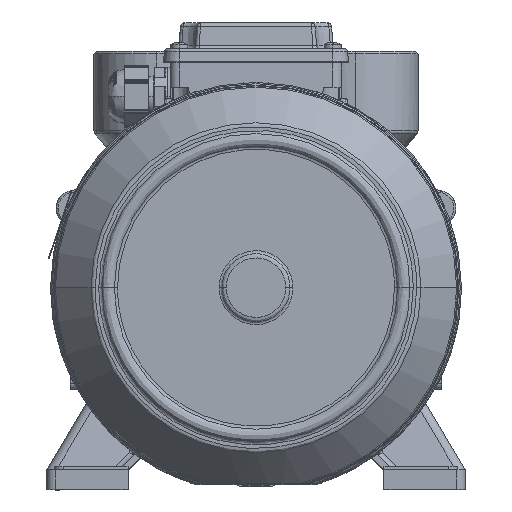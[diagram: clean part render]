
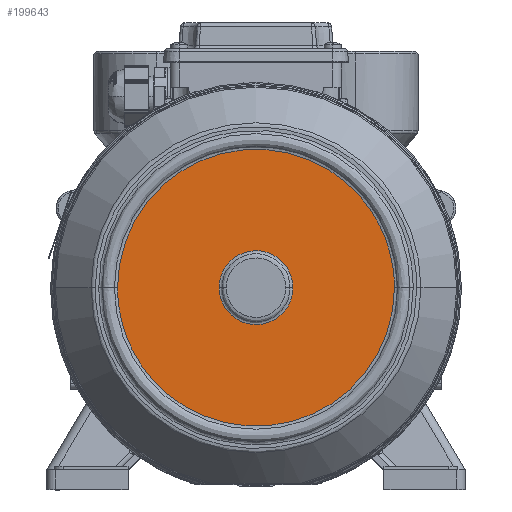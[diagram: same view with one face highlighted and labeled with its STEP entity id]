
A CAD part, top view. The second image highlights one B-rep face of the part: STEP entity #199643.
In plain terms, the highlighted planar face has unit normal (0, 0, 1).
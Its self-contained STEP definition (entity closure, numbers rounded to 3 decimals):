
#2622 = CARTESIAN_POINT ( 'NONE',  ( 77.725, -89.726, 497.5 ) ) ;
#7492 = ORIENTED_EDGE ( 'NONE', *, *, #141476, .F. ) ;
#10360 = VERTEX_POINT ( 'NONE', #26433 ) ;
#18135 = DIRECTION ( 'NONE',  ( -1., 0., 0. ) ) ;
#26433 = CARTESIAN_POINT ( 'NONE',  ( -20.5, -12., 497.5 ) ) ;
#27560 = VERTEX_POINT ( 'NONE', #189836 ) ;
#36493 = CARTESIAN_POINT ( 'NONE',  ( 20.5, -53., 497.5 ) ) ;
#42091 = AXIS2_PLACEMENT_3D ( 'NONE', #2622, #168477, #18135 ) ;
#52387 = CARTESIAN_POINT ( 'NONE',  ( -76.804, -12., 497.5 ) ) ;
#55175 =( BOUNDED_CURVE ( )  B_SPLINE_CURVE ( 3, ( #86649, #91780, #168461, #52387 ),
 .UNSPECIFIED., .F., .F. ) 
 B_SPLINE_CURVE_WITH_KNOTS ( ( 4, 4 ),
 ( 0., 1. ),
 .UNSPECIFIED. ) 
 CURVE ( )  GEOMETRIC_REPRESENTATION_ITEM ( )  RATIONAL_B_SPLINE_CURVE ( ( 0.971, 0.324, 0.324, 0.971 ) ) 
 REPRESENTATION_ITEM ( '' )  );
#60272 = CARTESIAN_POINT ( 'NONE',  ( -76.804, 141.608, 497.5 ) ) ;
#68589 = CARTESIAN_POINT ( 'NONE',  ( -20.5, -53., 497.5 ) ) ;
#76528 = ORIENTED_EDGE ( 'NONE', *, *, #108363, .F. ) ;
#78334 = CARTESIAN_POINT ( 'NONE',  ( -20.5, -12., 497.5 ) ) ;
#78936 = EDGE_CURVE ( 'NONE', #10360, #164370, #165215, .T. ) ;
#85342 = EDGE_LOOP ( 'NONE', ( #91764, #182800 ) ) ;
#86649 = CARTESIAN_POINT ( 'NONE',  ( 76.804, -12., 497.5 ) ) ;
#88719 =( BOUNDED_CURVE ( )  B_SPLINE_CURVE ( 3, ( #125905, #193226, #128069, #78334 ),
 .UNSPECIFIED., .F., .F. ) 
 B_SPLINE_CURVE_WITH_KNOTS ( ( 4, 4 ),
 ( 0., 1. ),
 .UNSPECIFIED. ) 
 CURVE ( )  GEOMETRIC_REPRESENTATION_ITEM ( )  RATIONAL_B_SPLINE_CURVE ( ( 0.973, 0.324, 0.324, 0.973 ) ) 
 REPRESENTATION_ITEM ( '' )  );
#91764 = ORIENTED_EDGE ( 'NONE', *, *, #78936, .F. ) ;
#91780 = CARTESIAN_POINT ( 'NONE',  ( 76.804, -165.608, 497.5 ) ) ;
#108363 = EDGE_CURVE ( 'NONE', #174882, #27560, #55175, .T. ) ;
#114065 = CARTESIAN_POINT ( 'NONE',  ( 20.5, -12., 497.5 ) ) ;
#114412 = CARTESIAN_POINT ( 'NONE',  ( 76.804, -12., 497.5 ) ) ;
#125905 = CARTESIAN_POINT ( 'NONE',  ( 20.5, -12., 497.5 ) ) ;
#128069 = CARTESIAN_POINT ( 'NONE',  ( -20.5, 29., 497.5 ) ) ;
#129856 = CARTESIAN_POINT ( 'NONE',  ( 76.804, 141.608, 497.5 ) ) ;
#132059 = CARTESIAN_POINT ( 'NONE',  ( -76.804, -12., 497.5 ) ) ;
#136390 = PLANE ( 'NONE',  #42091 ) ;
#140226 = EDGE_CURVE ( 'NONE', #164370, #10360, #88719, .T. ) ;
#141476 = EDGE_CURVE ( 'NONE', #27560, #174882, #142263, .T. ) ;
#142263 =( BOUNDED_CURVE ( )  B_SPLINE_CURVE ( 3, ( #132059, #60272, #129856, #114412 ),
 .UNSPECIFIED., .F., .F. ) 
 B_SPLINE_CURVE_WITH_KNOTS ( ( 4, 4 ),
 ( 0., 1. ),
 .UNSPECIFIED. ) 
 CURVE ( )  GEOMETRIC_REPRESENTATION_ITEM ( )  RATIONAL_B_SPLINE_CURVE ( ( 0.971, 0.324, 0.324, 0.971 ) ) 
 REPRESENTATION_ITEM ( '' )  );
#149264 = CARTESIAN_POINT ( 'NONE',  ( 76.804, -12., 497.5 ) ) ;
#149836 = EDGE_LOOP ( 'NONE', ( #76528, #7492 ) ) ;
#164370 = VERTEX_POINT ( 'NONE', #114065 ) ;
#165215 =( BOUNDED_CURVE ( )  B_SPLINE_CURVE ( 3, ( #187873, #68589, #36493, #201157 ),
 .UNSPECIFIED., .F., .T. ) 
 B_SPLINE_CURVE_WITH_KNOTS ( ( 4, 4 ),
 ( 0., 1. ),
 .UNSPECIFIED. ) 
 CURVE ( )  GEOMETRIC_REPRESENTATION_ITEM ( )  RATIONAL_B_SPLINE_CURVE ( ( 0.973, 0.324, 0.324, 0.973 ) ) 
 REPRESENTATION_ITEM ( '' )  );
#168461 = CARTESIAN_POINT ( 'NONE',  ( -76.804, -165.608, 497.5 ) ) ;
#168477 = DIRECTION ( 'NONE',  ( 0., 0., -1. ) ) ;
#169552 = FACE_OUTER_BOUND ( 'NONE', #149836, .T. ) ;
#174882 = VERTEX_POINT ( 'NONE', #149264 ) ;
#182800 = ORIENTED_EDGE ( 'NONE', *, *, #140226, .F. ) ;
#187873 = CARTESIAN_POINT ( 'NONE',  ( -20.5, -12., 497.5 ) ) ;
#189836 = CARTESIAN_POINT ( 'NONE',  ( -76.804, -12., 497.5 ) ) ;
#193226 = CARTESIAN_POINT ( 'NONE',  ( 20.5, 29., 497.5 ) ) ;
#199643 = ADVANCED_FACE ( 'NONE', ( #204840, #169552 ), #136390, .F. ) ;
#201157 = CARTESIAN_POINT ( 'NONE',  ( 20.5, -12., 497.5 ) ) ;
#204840 = FACE_BOUND ( 'NONE', #85342, .T. ) ;
